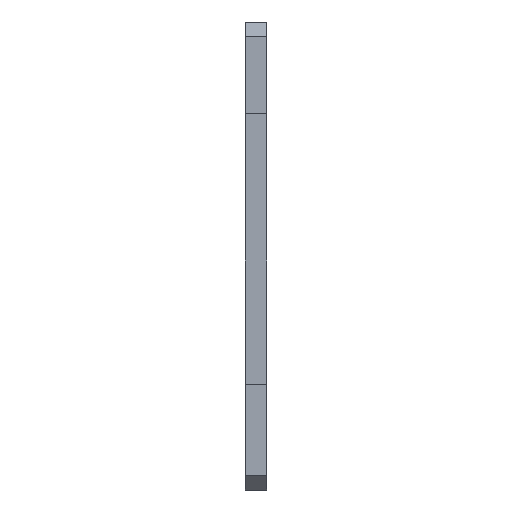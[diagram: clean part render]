
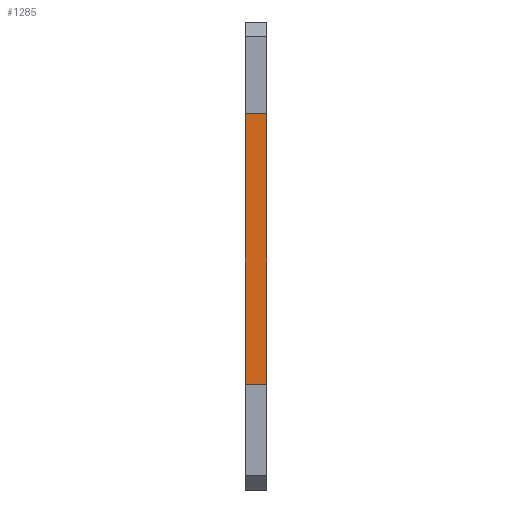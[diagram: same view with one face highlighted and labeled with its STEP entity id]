
A CAD part, front view. The second image highlights one B-rep face of the part: STEP entity #1285.
In plain terms, the highlighted planar face has unit normal (0, -1, 0).
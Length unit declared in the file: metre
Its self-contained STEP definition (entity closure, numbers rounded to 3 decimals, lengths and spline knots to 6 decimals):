
#140=ORIENTED_EDGE('',*,*,#492,.T.);
#141=ORIENTED_EDGE('',*,*,#510,.T.);
#142=ORIENTED_EDGE('',*,*,#408,.F.);
#143=ORIENTED_EDGE('',*,*,#511,.F.);
#408=EDGE_CURVE('',#594,#595,#718,.T.);
#492=EDGE_CURVE('',#677,#676,#802,.T.);
#510=EDGE_CURVE('',#676,#595,#820,.T.);
#511=EDGE_CURVE('',#677,#594,#821,.T.);
#594=VERTEX_POINT('',#1790);
#595=VERTEX_POINT('',#1792);
#676=VERTEX_POINT('',#1957);
#677=VERTEX_POINT('',#1959);
#718=LINE('',#1791,#904);
#802=LINE('',#1958,#988);
#820=LINE('',#1994,#1006);
#821=LINE('',#1995,#1007);
#904=VECTOR('',#1453,1.);
#988=VECTOR('',#1539,1.);
#1006=VECTOR('',#1559,1.);
#1007=VECTOR('',#1560,1.);
#1081=EDGE_LOOP('',(#140,#141,#142,#143));
#1157=FACE_BOUND('',#1081,.T.);
#1221=PLANE('',#1362);
#1285=ADVANCED_FACE('',(#1157),#1221,.F.);
#1362=AXIS2_PLACEMENT_3D('',#1993,#1557,#1558);
#1453=DIRECTION('',(0.,0.,-1.));
#1539=DIRECTION('',(0.,0.,-1.));
#1557=DIRECTION('',(0.,1.,0.));
#1558=DIRECTION('',(-1.,0.,0.));
#1559=DIRECTION('',(1.,0.,0.));
#1560=DIRECTION('',(1.,0.,0.));
#1790=CARTESIAN_POINT('',(-0.13385,-0.239,0.0355));
#1791=CARTESIAN_POINT('',(-0.13385,-0.239,0.474254));
#1792=CARTESIAN_POINT('',(-0.13385,-0.239,-0.002999));
#1957=CARTESIAN_POINT('',(-0.13685,-0.239,-0.002999));
#1958=CARTESIAN_POINT('',(-0.13685,-0.239,0.474254));
#1959=CARTESIAN_POINT('',(-0.13685,-0.239,0.0355));
#1993=CARTESIAN_POINT('',(-0.095875,-0.239,0.474254));
#1994=CARTESIAN_POINT('',(-0.095875,-0.239,-0.002999));
#1995=CARTESIAN_POINT('',(-0.095875,-0.239,0.0355));
